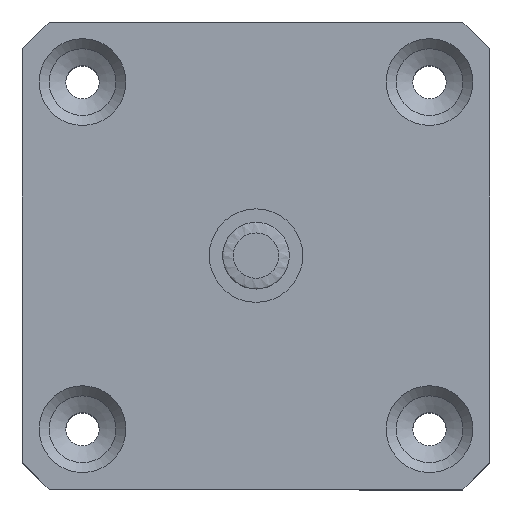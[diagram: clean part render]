
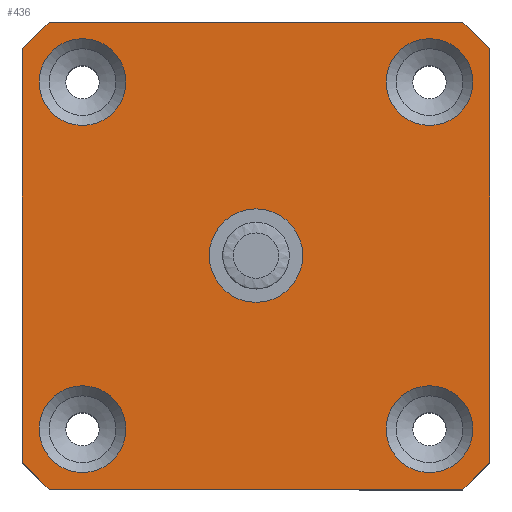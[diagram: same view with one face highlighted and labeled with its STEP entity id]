
A CAD part, top view. The second image highlights one B-rep face of the part: STEP entity #436.
In plain terms, the highlighted planar face has unit normal (0, 0, 1).
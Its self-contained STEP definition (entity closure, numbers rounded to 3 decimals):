
#108=CARTESIAN_POINT('',(2.,0.,0.));
#109=VERTEX_POINT('',#108);
#116=CARTESIAN_POINT('',(33.,0.,0.));
#117=VERTEX_POINT('',#116);
#118=CARTESIAN_POINT('',(2.,0.,0.));
#119=DIRECTION('',(1.,0.,0.));
#120=VECTOR('',#119,31.);
#121=LINE('',#118,#120);
#122=EDGE_CURVE('',#109,#117,#121,.T.);
#138=CARTESIAN_POINT('',(35.,2.,0.));
#139=VERTEX_POINT('',#138);
#140=CARTESIAN_POINT('',(35.,33.,0.));
#141=VERTEX_POINT('',#140);
#142=CARTESIAN_POINT('',(35.,2.,0.));
#143=DIRECTION('',(0.,1.,0.));
#144=VECTOR('',#143,31.);
#145=LINE('',#142,#144);
#146=EDGE_CURVE('',#139,#141,#145,.T.);
#178=CARTESIAN_POINT('',(33.,35.,0.));
#179=VERTEX_POINT('',#178);
#180=CARTESIAN_POINT('',(2.,35.,0.));
#181=VERTEX_POINT('',#180);
#182=CARTESIAN_POINT('',(33.,35.,0.));
#183=DIRECTION('',(-1.,0.,0.));
#184=VECTOR('',#183,31.);
#185=LINE('',#182,#184);
#186=EDGE_CURVE('',#179,#181,#185,.T.);
#218=CARTESIAN_POINT('',(0.,33.,0.));
#219=VERTEX_POINT('',#218);
#220=CARTESIAN_POINT('',(0.,2.,0.));
#221=VERTEX_POINT('',#220);
#222=CARTESIAN_POINT('',(0.,33.,0.));
#223=DIRECTION('',(0.,-1.,0.));
#224=VECTOR('',#223,31.);
#225=LINE('',#222,#224);
#226=EDGE_CURVE('',#219,#221,#225,.T.);
#258=CARTESIAN_POINT('',(35.,33.,0.));
#259=DIRECTION('',(-0.707,0.707,0.));
#260=VECTOR('',#259,2.828);
#261=LINE('',#258,#260);
#262=EDGE_CURVE('',#141,#179,#261,.T.);
#280=CARTESIAN_POINT('',(2.,35.,0.));
#281=DIRECTION('',(-0.707,-0.707,0.));
#282=VECTOR('',#281,2.828);
#283=LINE('',#280,#282);
#284=EDGE_CURVE('',#181,#219,#283,.T.);
#302=CARTESIAN_POINT('',(0.,2.,0.));
#303=DIRECTION('',(0.707,-0.707,0.));
#304=VECTOR('',#303,2.828);
#305=LINE('',#302,#304);
#306=EDGE_CURVE('',#221,#109,#305,.T.);
#324=CARTESIAN_POINT('',(33.,0.,0.));
#325=DIRECTION('',(0.707,0.707,0.));
#326=VECTOR('',#325,2.828);
#327=LINE('',#324,#326);
#328=EDGE_CURVE('',#117,#139,#327,.T.);
#346=CARTESIAN_POINT('',(17.5,14.,0.));
#347=VERTEX_POINT('',#346);
#348=CARTESIAN_POINT('',(17.5,17.5,0.));
#349=DIRECTION('',(0.,-1.,-0.));
#350=DIRECTION('',(0.,0.,-1.));
#351=AXIS2_PLACEMENT_3D('',#348,#350,#349);
#352=CIRCLE('',#351,3.5);
#353=EDGE_CURVE('',#347,#347,#352,.T.);
#374=CARTESIAN_POINT('',(17.5,17.5,0.));
#375=DIRECTION('',(1.,0.,0.));
#376=DIRECTION('',(0.,0.,1.));
#377=AXIS2_PLACEMENT_3D('',#374,#376,#375);
#378=PLANE('',#377);
#379=ORIENTED_EDGE('',*,*,#146,.T.);
#380=ORIENTED_EDGE('',*,*,#262,.T.);
#381=ORIENTED_EDGE('',*,*,#186,.T.);
#382=ORIENTED_EDGE('',*,*,#284,.T.);
#383=ORIENTED_EDGE('',*,*,#226,.T.);
#384=ORIENTED_EDGE('',*,*,#306,.T.);
#385=ORIENTED_EDGE('',*,*,#122,.T.);
#386=ORIENTED_EDGE('',*,*,#328,.T.);
#387=EDGE_LOOP('',(#379,#380,#381,#382,#383,#384,#385,#386));
#388=FACE_OUTER_BOUND('',#387,.T.);
#389=ORIENTED_EDGE('',*,*,#353,.T.);
#390=EDGE_LOOP('',(#389));
#391=FACE_BOUND('',#390,.T.);
#392=CARTESIAN_POINT('',(7.75,30.5,0.));
#393=VERTEX_POINT('',#392);
#394=CARTESIAN_POINT('',(4.5,30.5,0.));
#395=DIRECTION('',(1.,0.,-0.));
#396=DIRECTION('',(0.,0.,-1.));
#397=AXIS2_PLACEMENT_3D('',#394,#396,#395);
#398=CIRCLE('',#397,3.25);
#399=EDGE_CURVE('',#393,#393,#398,.T.);
#400=ORIENTED_EDGE('E117',*,*,#399,.T.);
#401=EDGE_LOOP('',(#400));
#402=FACE_BOUND('',#401,.T.);
#403=CARTESIAN_POINT('',(33.75,30.5,0.));
#404=VERTEX_POINT('',#403);
#405=CARTESIAN_POINT('',(30.5,30.5,0.));
#406=DIRECTION('',(1.,0.,-0.));
#407=DIRECTION('',(0.,-0.,-1.));
#408=AXIS2_PLACEMENT_3D('',#405,#407,#406);
#409=CIRCLE('',#408,3.25);
#410=EDGE_CURVE('',#404,#404,#409,.T.);
#411=ORIENTED_EDGE('E124',*,*,#410,.T.);
#412=EDGE_LOOP('',(#411));
#413=FACE_BOUND('',#412,.T.);
#414=CARTESIAN_POINT('',(7.75,4.5,0.));
#415=VERTEX_POINT('',#414);
#416=CARTESIAN_POINT('',(4.5,4.5,0.));
#417=DIRECTION('',(1.,0.,-0.));
#418=DIRECTION('',(0.,-0.,-1.));
#419=AXIS2_PLACEMENT_3D('',#416,#418,#417);
#420=CIRCLE('',#419,3.25);
#421=EDGE_CURVE('',#415,#415,#420,.T.);
#422=ORIENTED_EDGE('E110',*,*,#421,.T.);
#423=EDGE_LOOP('',(#422));
#424=FACE_BOUND('',#423,.T.);
#425=CARTESIAN_POINT('',(33.75,4.5,0.));
#426=VERTEX_POINT('',#425);
#427=CARTESIAN_POINT('',(30.5,4.5,0.));
#428=DIRECTION('',(1.,0.,-0.));
#429=DIRECTION('',(0.,-0.,-1.));
#430=AXIS2_PLACEMENT_3D('',#427,#429,#428);
#431=CIRCLE('',#430,3.25);
#432=EDGE_CURVE('',#426,#426,#431,.T.);
#433=ORIENTED_EDGE('E103',*,*,#432,.T.);
#434=EDGE_LOOP('',(#433));
#435=FACE_BOUND('',#434,.T.);
#436=ADVANCED_FACE('F1',(#388,#391,#402,#413,#424,#435),#378,.T.);
